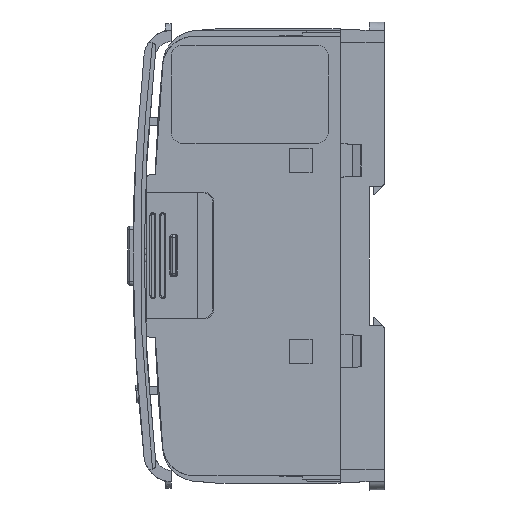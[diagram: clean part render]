
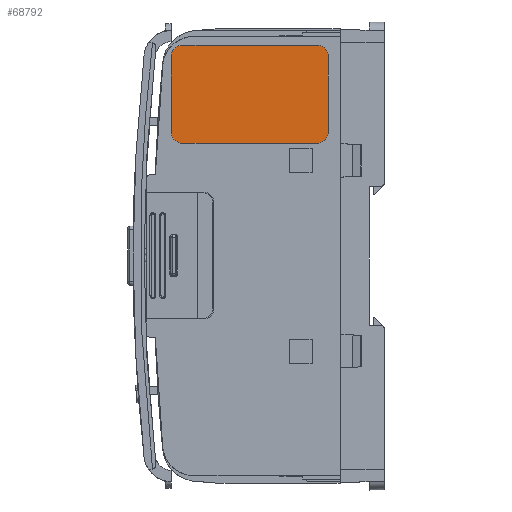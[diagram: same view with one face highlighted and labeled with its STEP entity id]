
A CAD part, left-side view. The second image highlights one B-rep face of the part: STEP entity #68792.
In plain terms, the highlighted planar face has unit normal (-1, 0.002, 0).
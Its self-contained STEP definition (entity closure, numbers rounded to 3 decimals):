
#2357 = EDGE_LOOP ( 'NONE', ( #94549, #94550, #94551, #94552, #94553, #94554, #94555, #94556 ) ) ;
#16122 = CIRCLE ( 'NONE', #16125, 2.997 ) ;
#16125 = AXIS2_PLACEMENT_3D ( 'NONE', #25198, #25199, #25200 ) ;
#16131 = VECTOR ( 'NONE', #25219, 1000. ) ;
#16137 = CIRCLE ( 'NONE', #16143, 2.997 ) ;
#16143 = AXIS2_PLACEMENT_3D ( 'NONE', #25233, #25234, #25235 ) ;
#16150 = VECTOR ( 'NONE', #25255, 1000. ) ;
#16159 = CIRCLE ( 'NONE', #16166, 2.997 ) ;
#16166 = AXIS2_PLACEMENT_3D ( 'NONE', #25267, #25268, #25269 ) ;
#16172 = VECTOR ( 'NONE', #25286, 1000. ) ;
#16200 = CIRCLE ( 'NONE', #16202, 2.997 ) ;
#16202 = AXIS2_PLACEMENT_3D ( 'NONE', #25315, #25316, #25317 ) ;
#16205 = VECTOR ( 'NONE', #25327, 1000. ) ;
#25198 = CARTESIAN_POINT ( 'NONE',  ( 40.206, 63.673, 31.909 ) ) ;
#25199 = DIRECTION ( 'NONE',  ( -1., 0.002, 0. ) ) ;
#25200 = DIRECTION ( 'NONE',  ( 0.002, 1., 0. ) ) ;
#25217 = LINE ( 'NONE', #25218, #16131 ) ;
#25218 = CARTESIAN_POINT ( 'NONE',  ( 40.211, 66.669, 31.909 ) ) ;
#25219 = DIRECTION ( 'NONE',  ( 0., 0., -1. ) ) ;
#25233 = CARTESIAN_POINT ( 'NONE',  ( 40.206, 63.673, 50.909 ) ) ;
#25234 = DIRECTION ( 'NONE',  ( -1., 0.002, 0. ) ) ;
#25235 = DIRECTION ( 'NONE',  ( 0.002, 1., 0. ) ) ;
#25253 = LINE ( 'NONE', #25254, #16150 ) ;
#25254 = CARTESIAN_POINT ( 'NONE',  ( 40.206, 63.673, 53.905 ) ) ;
#25255 = DIRECTION ( 'NONE',  ( 0.002, 1., 0. ) ) ;
#25267 = CARTESIAN_POINT ( 'NONE',  ( 40.146, 29.673, 50.91 ) ) ;
#25268 = DIRECTION ( 'NONE',  ( -1., 0.002, 0. ) ) ;
#25269 = DIRECTION ( 'NONE',  ( 0.002, 1., 0. ) ) ;
#25284 = LINE ( 'NONE', #25285, #16172 ) ;
#25285 = CARTESIAN_POINT ( 'NONE',  ( 40.141, 26.676, 31.91 ) ) ;
#25286 = DIRECTION ( 'NONE',  ( 0., 0., 1. ) ) ;
#25313 = LINE ( 'NONE', #25326, #16205 ) ;
#25315 = CARTESIAN_POINT ( 'NONE',  ( 40.146, 29.673, 31.91 ) ) ;
#25316 = DIRECTION ( 'NONE',  ( -1., 0.002, 0. ) ) ;
#25317 = DIRECTION ( 'NONE',  ( 0.002, 1., 0. ) ) ;
#25326 = CARTESIAN_POINT ( 'NONE',  ( 40.206, 63.673, 28.912 ) ) ;
#25327 = DIRECTION ( 'NONE',  ( -0.002, -1., 0. ) ) ;
#41954 = AXIS2_PLACEMENT_3D ( 'NONE', #54113, #54129, #54131 ) ;
#54113 = CARTESIAN_POINT ( 'NONE',  ( 40.206, 63.673, 31.909 ) ) ;
#54119 = FACE_OUTER_BOUND ( 'NONE', #2357, .T. ) ;
#54121 = PLANE ( 'NONE',  #41954 ) ;
#54129 = DIRECTION ( 'NONE',  ( 1., -0.002, 0. ) ) ;
#54131 = DIRECTION ( 'NONE',  ( 0.002, 1., 0. ) ) ;
#68792 = ADVANCED_FACE ( 'NONE', ( #54119 ), #54121, .F. ) ;
#73207 = VERTEX_POINT ( 'NONE', #84136 ) ;
#73213 = VERTEX_POINT ( 'NONE', #84142 ) ;
#73215 = VERTEX_POINT ( 'NONE', #84144 ) ;
#73217 = VERTEX_POINT ( 'NONE', #84146 ) ;
#73218 = VERTEX_POINT ( 'NONE', #84147 ) ;
#73219 = VERTEX_POINT ( 'NONE', #84148 ) ;
#73220 = VERTEX_POINT ( 'NONE', #84149 ) ;
#73221 = VERTEX_POINT ( 'NONE', #84150 ) ;
#84136 = CARTESIAN_POINT ( 'NONE',  ( 40.206, 63.673, 28.912 ) ) ;
#84142 = CARTESIAN_POINT ( 'NONE',  ( 40.211, 66.669, 31.909 ) ) ;
#84144 = CARTESIAN_POINT ( 'NONE',  ( 40.211, 66.669, 50.909 ) ) ;
#84146 = CARTESIAN_POINT ( 'NONE',  ( 40.206, 63.673, 53.905 ) ) ;
#84147 = CARTESIAN_POINT ( 'NONE',  ( 40.146, 29.673, 53.906 ) ) ;
#84148 = CARTESIAN_POINT ( 'NONE',  ( 40.141, 26.676, 50.91 ) ) ;
#84149 = CARTESIAN_POINT ( 'NONE',  ( 40.141, 26.676, 31.91 ) ) ;
#84150 = CARTESIAN_POINT ( 'NONE',  ( 40.146, 29.673, 28.913 ) ) ;
#90696 = EDGE_CURVE ( 'NONE', #73213, #73207, #16122, .T. ) ;
#90700 = EDGE_CURVE ( 'NONE', #73215, #73213, #25217, .T. ) ;
#90704 = EDGE_CURVE ( 'NONE', #73217, #73215, #16137, .T. ) ;
#90708 = EDGE_CURVE ( 'NONE', #73218, #73217, #25253, .T. ) ;
#90712 = EDGE_CURVE ( 'NONE', #73219, #73218, #16159, .T. ) ;
#90716 = EDGE_CURVE ( 'NONE', #73220, #73219, #25284, .T. ) ;
#90721 = EDGE_CURVE ( 'NONE', #73221, #73220, #16200, .T. ) ;
#90725 = EDGE_CURVE ( 'NONE', #73207, #73221, #25313, .T. ) ;
#94549 = ORIENTED_EDGE ( 'NONE', *, *, #90696, .T. ) ;
#94550 = ORIENTED_EDGE ( 'NONE', *, *, #90725, .T. ) ;
#94551 = ORIENTED_EDGE ( 'NONE', *, *, #90721, .T. ) ;
#94552 = ORIENTED_EDGE ( 'NONE', *, *, #90716, .T. ) ;
#94553 = ORIENTED_EDGE ( 'NONE', *, *, #90712, .T. ) ;
#94554 = ORIENTED_EDGE ( 'NONE', *, *, #90708, .T. ) ;
#94555 = ORIENTED_EDGE ( 'NONE', *, *, #90704, .T. ) ;
#94556 = ORIENTED_EDGE ( 'NONE', *, *, #90700, .T. ) ;
